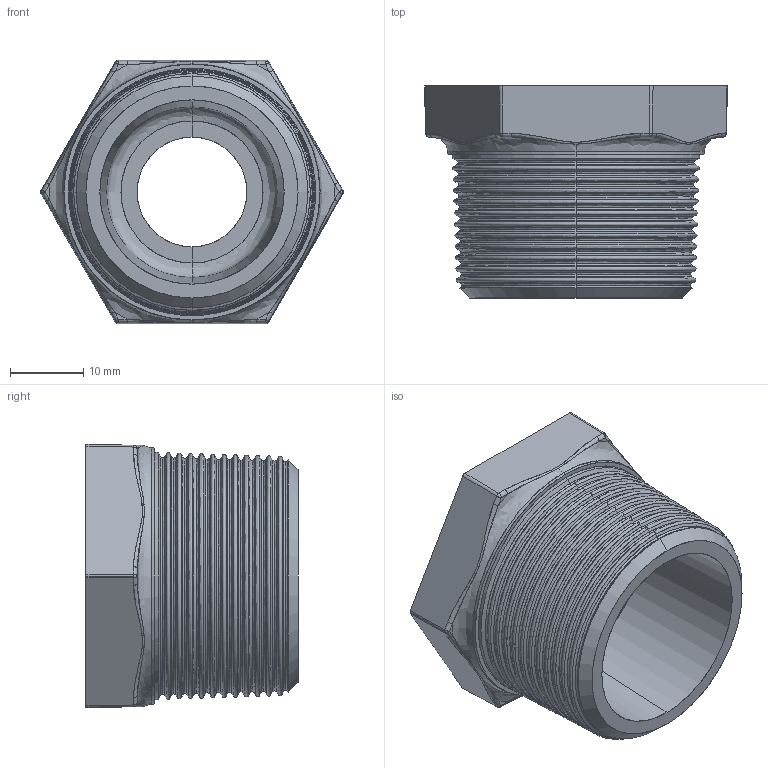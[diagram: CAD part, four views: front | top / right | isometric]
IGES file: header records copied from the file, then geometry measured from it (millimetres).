
Start section: SolidWorks IGES file using analytic representation for surfaces
Global section: file name: C:\Users\Joel Rosa\Desktop\Tubulação\12-01-OK\12-01-031.IGS; native system: SolidWorks 2011; preprocessor: SolidWorks 2011; author: Joel Rosa; date: 121203.195202; units: millimetre
Bounding box: 41.41 x 29 x 36 mm (x, y, z)
Surface area: 7915.5 mm2 (no closed solid volume)
Topology: 0 solids, 0 shells, 366 faces, 3111 edges, 3111 vertices
Faces by surface type: bspline 260, revolution 106
